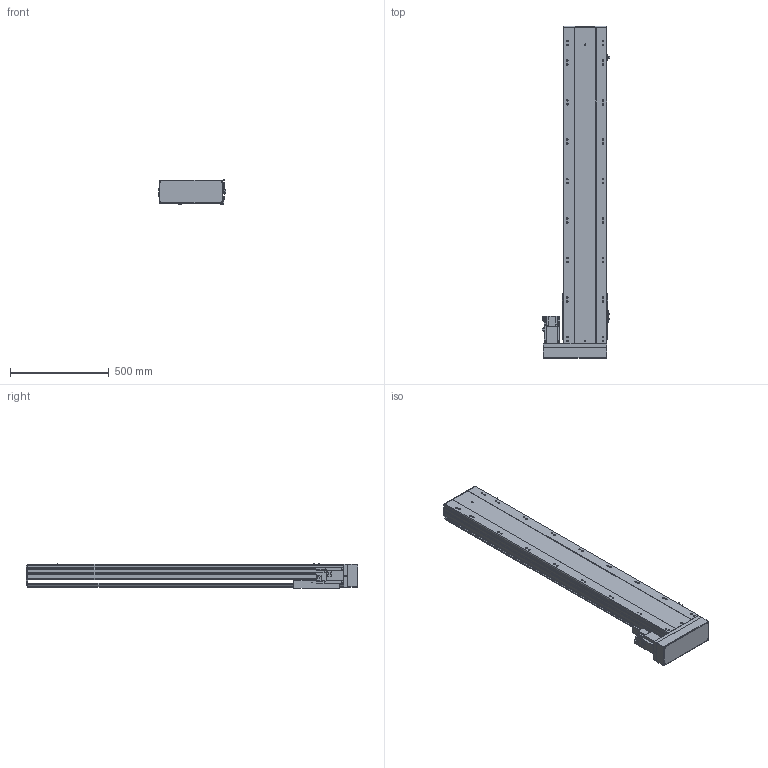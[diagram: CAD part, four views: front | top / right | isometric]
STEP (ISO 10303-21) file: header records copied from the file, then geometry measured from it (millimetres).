
FILE_DESCRIPTION (( 'STEP AP203' ), '1' );
FILE_NAME ('26.STEP', '2020-11-23T02:12:49', ( '' ), ( '' ), 'SwSTEP 2.0', 'SolidWorks 2016', '' );
FILE_SCHEMA (( 'CONFIG_CONTROL_DESIGN' ));
Length unit declared in the file: millimetre
Products named in the file (7): BTH22-BL-菁釱; BTH22-BL-HZ; BTH22-BL-T75; BTH22-BL-02; BTH22-BL-04; 26; BTH22-BL-01
Assembly tree (8 placements, depth 2):
  26
    BTH22-BL-菁釱
    BTH22-BL-01
    BTH22-BL-02
    BTH22-BL-04  x3
    BTH22-BL-HZ
    BTH22-BL-T75
Bounding box: 340 x 1682 x 122.7 mm (x, y, z)
Volume: 21279372.7 mm3; surface area: 2736971.7 mm2
Topology: 11 solids, 11 shells, 1070 faces, 3020 edges, 1967 vertices
Faces by surface type: plane 569, cylinder 451, cone 42, bspline 8
Entity records: 32597 total; most frequent: CARTESIAN_POINT 6836, ORIENTED_EDGE 5276, DIRECTION 5204, EDGE_CURVE 2638, AXIS2_PLACEMENT_3D 1767, VERTEX_POINT 1735, VECTOR 1670, LINE 1670
